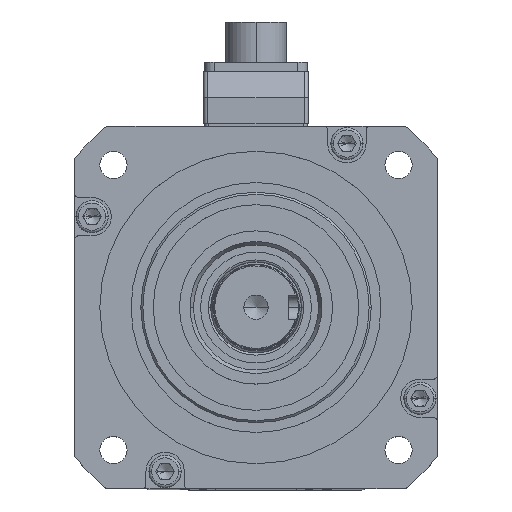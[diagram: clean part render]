
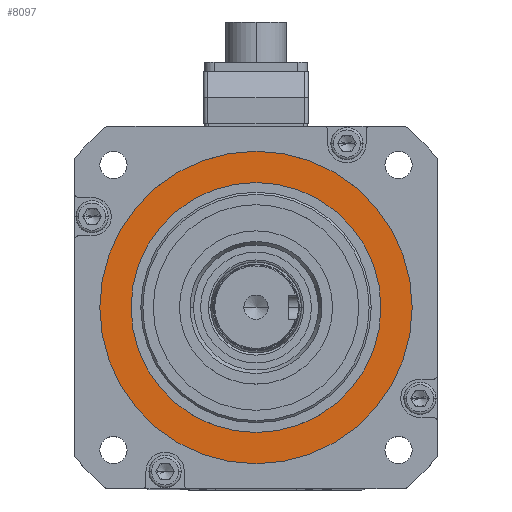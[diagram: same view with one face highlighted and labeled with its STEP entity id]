
A CAD part, top view. The second image highlights one B-rep face of the part: STEP entity #8097.
In plain terms, the highlighted planar face has unit normal (0, 0, 1).
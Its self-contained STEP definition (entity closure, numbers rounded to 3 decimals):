
#1794 = EDGE_LOOP ( 'NONE', ( #5774, #5783 ) ) ;
#1800 = EDGE_LOOP ( 'NONE', ( #5763, #5768 ) ) ;
#2348 = CIRCLE ( 'NONE', #39552, 62. ) ;
#2490 = CIRCLE ( 'NONE', #39590, 77.5 ) ;
#2564 = CIRCLE ( 'NONE', #39614, 62. ) ;
#2578 = CIRCLE ( 'NONE', #39618, 77.5 ) ;
#3198 = CARTESIAN_POINT ( 'NONE',  ( 0., 0., 20. ) ) ;
#3199 = DIRECTION ( 'NONE',  ( 0., 0., 1. ) ) ;
#3200 = DIRECTION ( 'NONE',  ( 1., 0., 0. ) ) ;
#3529 = CARTESIAN_POINT ( 'NONE',  ( 62., 0., 20. ) ) ;
#3531 = CARTESIAN_POINT ( 'NONE',  ( -62., 0., 20. ) ) ;
#3535 = CARTESIAN_POINT ( 'NONE',  ( -77.5, 0., 20. ) ) ;
#3541 = CARTESIAN_POINT ( 'NONE',  ( 77.5, 0., 20. ) ) ;
#3605 = CARTESIAN_POINT ( 'NONE',  ( 0., 0., 20. ) ) ;
#3607 = DIRECTION ( 'NONE',  ( 0., 0., 1. ) ) ;
#3609 = DIRECTION ( 'NONE',  ( 1., 0., 0. ) ) ;
#3936 = CARTESIAN_POINT ( 'NONE',  ( 0., 0., 20. ) ) ;
#3938 = DIRECTION ( 'NONE',  ( 0., 0., 1. ) ) ;
#3940 = DIRECTION ( 'NONE',  ( 1., 0., 0. ) ) ;
#3978 = CARTESIAN_POINT ( 'NONE',  ( 0., 0., 20. ) ) ;
#3980 = DIRECTION ( 'NONE',  ( 0., 0., 1. ) ) ;
#3982 = DIRECTION ( 'NONE',  ( 1., 0., 0. ) ) ;
#5763 = ORIENTED_EDGE ( 'NONE', *, *, #30766, .F. ) ;
#5768 = ORIENTED_EDGE ( 'NONE', *, *, #30908, .F. ) ;
#5774 = ORIENTED_EDGE ( 'NONE', *, *, #30914, .T. ) ;
#5783 = ORIENTED_EDGE ( 'NONE', *, *, #30856, .T. ) ;
#8097 = ADVANCED_FACE ( 'NONE', ( #15232, #15235 ), #25935, .T. ) ;
#9697 = VERTEX_POINT ( 'NONE', #3529 ) ;
#9699 = VERTEX_POINT ( 'NONE', #3531 ) ;
#9705 = VERTEX_POINT ( 'NONE', #3535 ) ;
#9710 = VERTEX_POINT ( 'NONE', #3541 ) ;
#15232 = FACE_BOUND ( 'NONE', #1800, .T. ) ;
#15235 = FACE_OUTER_BOUND ( 'NONE', #1794, .T. ) ;
#25935 = PLANE ( 'NONE',  #31280 ) ;
#26168 = DIRECTION ( 'NONE',  ( 1., 0., 0. ) ) ;
#26198 = CARTESIAN_POINT ( 'NONE',  ( 0., 0., 20. ) ) ;
#26249 = DIRECTION ( 'NONE',  ( 0., 0., 1. ) ) ;
#30766 = EDGE_CURVE ( 'NONE', #9697, #9699, #2348, .T. ) ;
#30856 = EDGE_CURVE ( 'NONE', #9705, #9710, #2490, .T. ) ;
#30908 = EDGE_CURVE ( 'NONE', #9699, #9697, #2564, .T. ) ;
#30914 = EDGE_CURVE ( 'NONE', #9710, #9705, #2578, .T. ) ;
#31280 = AXIS2_PLACEMENT_3D ( 'NONE', #26198, #26249, #26168 ) ;
#39552 = AXIS2_PLACEMENT_3D ( 'NONE', #3198, #3199, #3200 ) ;
#39590 = AXIS2_PLACEMENT_3D ( 'NONE', #3605, #3607, #3609 ) ;
#39614 = AXIS2_PLACEMENT_3D ( 'NONE', #3936, #3938, #3940 ) ;
#39618 = AXIS2_PLACEMENT_3D ( 'NONE', #3978, #3980, #3982 ) ;
